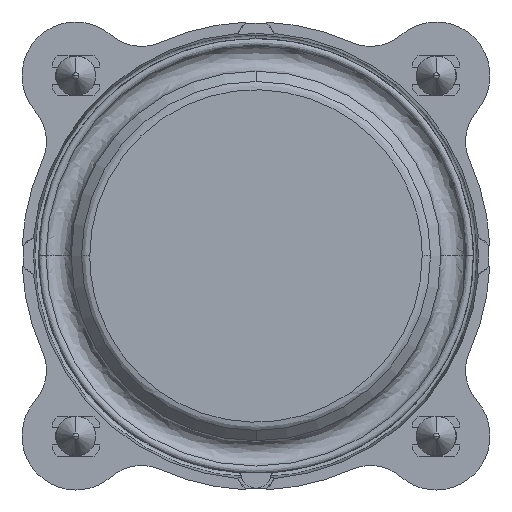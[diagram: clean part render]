
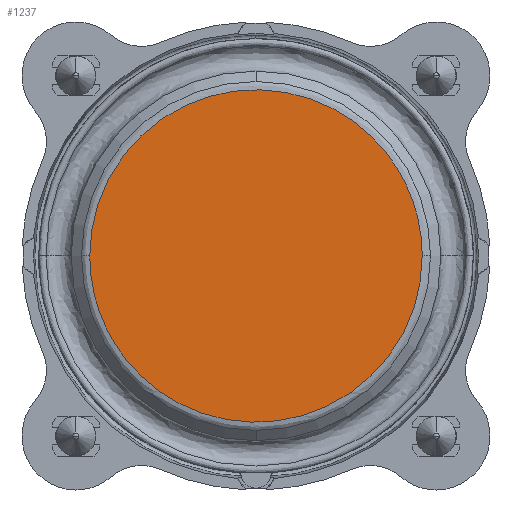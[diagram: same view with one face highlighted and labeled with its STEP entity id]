
A CAD part, front view. The second image highlights one B-rep face of the part: STEP entity #1237.
In plain terms, the highlighted planar face has unit normal (0, -1, 0).
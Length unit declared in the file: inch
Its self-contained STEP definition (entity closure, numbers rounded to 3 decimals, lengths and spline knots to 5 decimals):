
#1237 = ADVANCED_FACE ( 'NONE', ( #35839 ), #17157, .F. ) ;
#3081 =( BOUNDED_CURVE ( )  B_SPLINE_CURVE ( 3, ( #19516, #19513, #19511, #19509 ),
 .UNSPECIFIED., .F., .F. ) 
 B_SPLINE_CURVE_WITH_KNOTS ( ( 4, 4 ),
 ( 0., 1. ),
 .UNSPECIFIED. ) 
 CURVE ( )  GEOMETRIC_REPRESENTATION_ITEM ( )  RATIONAL_B_SPLINE_CURVE ( ( 0.978, 0.326, 0.326, 0.978 ) ) 
 REPRESENTATION_ITEM ( '' )  );
#3084 =( BOUNDED_CURVE ( )  B_SPLINE_CURVE ( 3, ( #19560, #19559, #19557, #19555 ),
 .UNSPECIFIED., .F., .F. ) 
 B_SPLINE_CURVE_WITH_KNOTS ( ( 4, 4 ),
 ( 0., 1. ),
 .UNSPECIFIED. ) 
 CURVE ( )  GEOMETRIC_REPRESENTATION_ITEM ( )  RATIONAL_B_SPLINE_CURVE ( ( 0.978, 0.326, 0.326, 0.978 ) ) 
 REPRESENTATION_ITEM ( '' )  );
#5582 = CARTESIAN_POINT ( 'NONE',  ( -0.44884, -0.50187, 0. ) ) ;
#5583 = CARTESIAN_POINT ( 'NONE',  ( 0.44884, -0.50187, 0. ) ) ;
#17157 = PLANE ( 'NONE',  #35842 ) ;
#17212 = DIRECTION ( 'NONE',  ( -1., 0., 0. ) ) ;
#17214 = DIRECTION ( 'NONE',  ( 0., 1., 0. ) ) ;
#17216 = CARTESIAN_POINT ( 'NONE',  ( 0.45423, -0.50187, -0.45423 ) ) ;
#19509 = CARTESIAN_POINT ( 'NONE',  ( -0.44884, -0.50187, 0. ) ) ;
#19511 = CARTESIAN_POINT ( 'NONE',  ( -0.44884, -0.50187, -0.89768 ) ) ;
#19513 = CARTESIAN_POINT ( 'NONE',  ( 0.44884, -0.50187, -0.89768 ) ) ;
#19516 = CARTESIAN_POINT ( 'NONE',  ( 0.44884, -0.50187, 0. ) ) ;
#19555 = CARTESIAN_POINT ( 'NONE',  ( 0.44884, -0.50187, 0. ) ) ;
#19557 = CARTESIAN_POINT ( 'NONE',  ( 0.44884, -0.50187, 0.89769 ) ) ;
#19559 = CARTESIAN_POINT ( 'NONE',  ( -0.44884, -0.50187, 0.89769 ) ) ;
#19560 = CARTESIAN_POINT ( 'NONE',  ( -0.44884, -0.50187, 0. ) ) ;
#22032 = EDGE_CURVE ( 'NONE', #30051, #30050, #3084, .T. ) ;
#22038 = EDGE_CURVE ( 'NONE', #30050, #30051, #3081, .T. ) ;
#24796 = ORIENTED_EDGE ( 'NONE', *, *, #22038, .F. ) ;
#24808 = ORIENTED_EDGE ( 'NONE', *, *, #22032, .F. ) ;
#30050 = VERTEX_POINT ( 'NONE', #5583 ) ;
#30051 = VERTEX_POINT ( 'NONE', #5582 ) ;
#35839 = FACE_OUTER_BOUND ( 'NONE', #39979, .T. ) ;
#35842 = AXIS2_PLACEMENT_3D ( 'NONE', #17216, #17214, #17212 ) ;
#39979 = EDGE_LOOP ( 'NONE', ( #24796, #24808 ) ) ;
